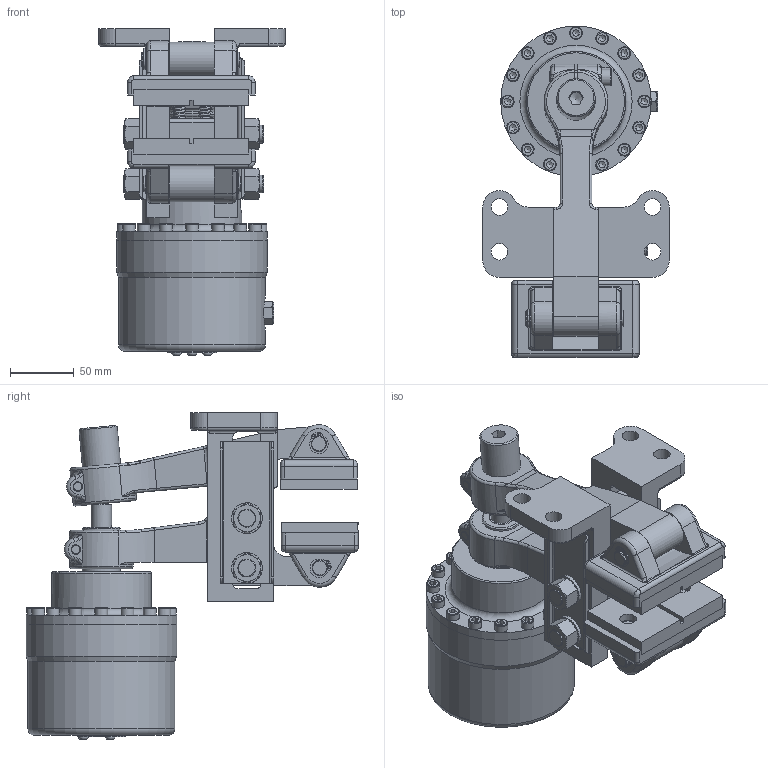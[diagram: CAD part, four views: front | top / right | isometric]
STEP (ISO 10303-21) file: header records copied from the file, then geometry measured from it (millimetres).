
FILE_DESCRIPTION(/* description */ ('','CAx-IF Rec.Pracs.---Representation and Presentation of Product Manufacturing Information (PMI)---4.0---2014-10-13'),/* implementation_level */ '2;1');
FILE_NAME(/* name */ 'X:\INVENTOR\DISEGNI\19_Pinze\STEP x Sito\OLEO-NEGATIVE\19_46_340_04 POHP-N340_25,4.stp',/* time_stamp */ '2018-02-23T16:33:24+01:00',/* author */ ('stefano'),/* organization */ (''),/* preprocessor_version */ 'ST-DEVELOPER v17',/* originating_system */ 'Autodesk Inventor 2018',/* authorisation */ '');
FILE_SCHEMA (('AP242_MANAGED_MODEL_BASED_3D_ENGINEERING_MIM_LF { 1 0 10303 442 1 1 4 }'));
Length unit declared in the file: millimetre
Products named in the file (1): 19_46_340_04 POHP-N340_25,4_Substitute_1
Bounding box: 146 x 260 x 255.9 mm (x, y, z)
Volume: 1974349.3 mm3; surface area: 328717.9 mm2
Topology: 1 solids, 1 shells, 1130 faces, 3094 edges, 2011 vertices
Faces by surface type: plane 546, cylinder 286, cone 127, torus 92, bspline 78, sphere 1
Full cylindrical faces by diameter (mm): 1.7 x8, 4 x2, 5 x2, 5.4 x2, 6 x4, 6.5 x6, 7.6 x3, 8 x3, 8.5 x2, 9 x2, 9.5 x2, 10 x19, 10.5 x1, 11.445 x2, 11.5 x4, 12 x17, 13 x10, 13.5 x2, 14 x8, 15 x1, 16 x4, 19 x1, 19.5 x12, 22 x1, 22.6 x1, 24 x1, 25 x1, 30 x2, 35 x1, 38 x1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
Entity records: 42693 total; most frequent: CARTESIAN_POINT 13065, ORIENTED_EDGE 6104, DIRECTION 5966, EDGE_CURVE 3052, AXIS2_PLACEMENT_3D 2327, VERTEX_POINT 2011, LINE 1312, VECTOR 1312
